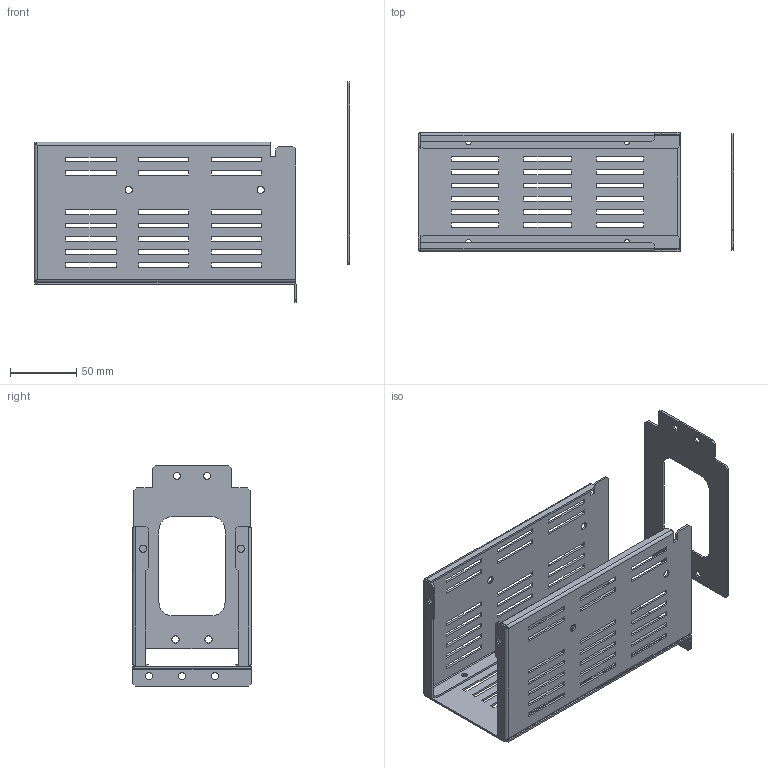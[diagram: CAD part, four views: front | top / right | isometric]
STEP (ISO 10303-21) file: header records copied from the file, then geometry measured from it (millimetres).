
FILE_DESCRIPTION(('CAx-IF Rec.Pracs.---Model Styling and Organization---1.2---2011-12-15','CAx-IF Rec.Pracs.---Geometric and Assembly Validation Properties---4.1---2014-06-16','CAx-IF Rec.Pracs.---PMI Polyline Presentation---2.0---2013-05-24'),'2;1');
FILE_NAME('R5M2W2MST3C.stp','2021-05-05T13:04:33+03:00',(''),(''),'STEP Interface 4.4 by CT CoreTechnologie','3D_Evolution4.4 by CT CoreTechnologie','');
FILE_SCHEMA(('AUTOMOTIVE_DESIGN { 1 0 10303 214 1 1 1 1 }'));
Length unit declared in the file: millimetre
Products named in the file (5): R5M2W2MST3C; RB.1263.00.00.0_-00; RB.1458.00.00.0_-00; RB.1459.00.00.0_-00; RB.1263.00.00.0_-01
Assembly tree (4 placements, depth 2):
  R5M2W2MST3C
    RB.1263.00.00.0_-00
    RB.1458.00.00.0_-00
    RB.1459.00.00.0_-00
    RB.1263.00.00.0_-01
Bounding box: 239 x 90 x 166.75 mm (x, y, z)
Surface area: 147643.9 mm2 (no closed solid volume)
Topology: 0 solids, 4 shells, 408 faces, 1155 edges, 755 vertices
Faces by surface type: plane 340, cylinder 60, bspline 8
Entity records: 13739 total; most frequent: CARTESIAN_POINT 2565, ORIENTED_EDGE 2310, DIRECTION 2077, EDGE_CURVE 1155, VECTOR 1031, LINE 1031, VERTEX_POINT 755, EDGE_LOOP 572
